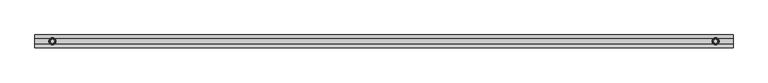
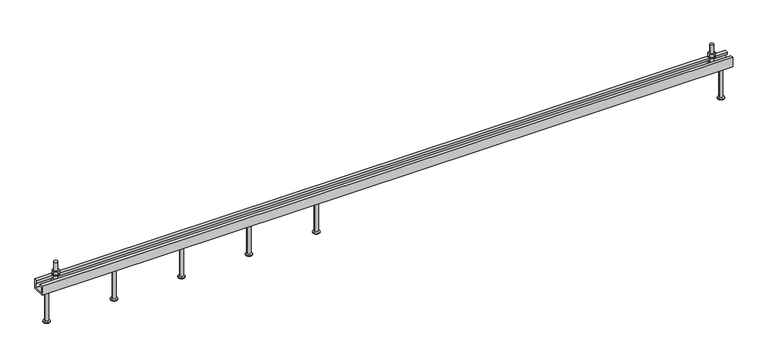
"""IFC4 building model written with IfcOpenShell, lengths in millimetres: fastener geometry, JTA-W JORDAHL® AnchorChannels : JTA-W L=3000 mm."""

import ifcopenshell
import ifcopenshell.guid

model = None  # the IFC model being written
_history = None  # IfcOwnerHistory: only IFC2X3 demands one
_inside = {}  # id of a spatial element -> (the spatial element, [elements in it])
_under = {}  # id of a project, library or spatial element -> (it, [spatial elements below it])
_declared = {}  # id of a project -> (the project, [libraries it declares])
_typed = {}  # id of a type object -> (the type object, [elements of that type])
_made_of = {}  # id of a material, layer set ... -> (it, [elements and type objects made of it])


def new_model(schema):
    """Start an empty IFC model of exactly this schema.

    Asked for "IFC4X3", IfcOpenShell would pick the latest addendum, in which some entities
    have other attributes; the version numbers below select the first issue.
    IFC2X3 requires an IfcOwnerHistory on every rooted entity: one is made here for all.
    """
    global model, _history
    if schema == "IFC4X3":
        model = ifcopenshell.file(schema_version=(4, 3, 0, 0))
    else:
        model = ifcopenshell.file(schema=schema)
    _inside.clear()
    _under.clear()
    _declared.clear()
    _typed.clear()
    _made_of.clear()
    _history = None
    if model.schema == "IFC2X3":
        org = make("IfcOrganization", Name="unknown")
        user = make(
            "IfcPersonAndOrganization",
            ThePerson=make("IfcPerson", FamilyName="unknown"),
            TheOrganization=org,
        )
        app = make(
            "IfcApplication",
            ApplicationDeveloper=org,
            Version="unknown",
            ApplicationFullName="unknown",
            ApplicationIdentifier="unknown",
        )
        _history = make(
            "IfcOwnerHistory",
            OwningUser=user,
            OwningApplication=app,
            ChangeAction="ADDED",
            CreationDate=0,
        )
    return model


def make(cls, **values):
    """One entity of the class cls with the attributes given. An attribute that is None is left unset."""
    return model.create_entity(
        cls, **{name: value for name, value in values.items() if value is not None}
    )


def rooted(cls, **values):
    """An entity with a GlobalId (a new one), such as an element, a storey or a relation."""
    return make(cls, GlobalId=ifcopenshell.guid.new(), OwnerHistory=_history, **values)


def si_unit(unit_type, name, prefix=None):
    """IfcSIUnit, for example si_unit("LENGTHUNIT", "METRE", prefix="MILLI")."""
    return make("IfcSIUnit", UnitType=unit_type, Prefix=prefix, Name=name)


def assignment(units):
    """IfcUnitAssignment: the units of a project."""
    return None if units is None else make("IfcUnitAssignment", Units=units)


def point(xyz):
    """IfcCartesianPoint."""
    return None if xyz is None else make("IfcCartesianPoint", Coordinates=xyz)


def direction(xyz):
    """IfcDirection."""
    return None if xyz is None else make("IfcDirection", DirectionRatios=xyz)


def frame(location, z_axis=None, x_axis=None):
    """IfcAxis2Placement3D, a coordinate frame: its origin and axes. An axis left out is left unset."""
    return make(
        "IfcAxis2Placement3D",
        Location=point(location),
        Axis=direction(z_axis),
        RefDirection=direction(x_axis),
    )


def frame_2d(location, x_axis=None):
    """IfcAxis2Placement2D, a coordinate frame in the plane: its origin and x axis."""
    return make(
        "IfcAxis2Placement2D", Location=point(location), RefDirection=direction(x_axis)
    )


def origin():
    """The frame at (0, 0, 0) with its axes left unset."""
    return frame((0.0, 0.0, 0.0))


def place(relative_to, where):
    """IfcLocalPlacement: puts the frame where relative to a parent placement (None: the world)."""
    return make(
        "IfcLocalPlacement", PlacementRelTo=relative_to, RelativePlacement=where
    )


def context(
    kind, dimensions, precision=None, world=None, true_north=None, identifier=None
):
    """IfcGeometricRepresentationContext, for example the 3D "Model" context."""
    return make(
        "IfcGeometricRepresentationContext",
        ContextIdentifier=identifier,
        ContextType=kind,
        CoordinateSpaceDimension=dimensions,
        Precision=precision,
        WorldCoordinateSystem=world,
        TrueNorth=true_north,
    )


def project(units=None, contexts=None):
    """IfcProject with its units and contexts."""
    return rooted(
        "IfcProject",
        Name="project",
        RepresentationContexts=contexts,
        UnitsInContext=assignment(units),
    )


def spatial(cls, under=None, at=None, **own):
    """A site, building, storey or space (cls), placed at a placement, below another one or the project."""
    s = rooted(cls, ObjectPlacement=at, **own)
    if under is not None:
        _under.setdefault(under.id(), (under, []))[1].append(s)
    return s


def polyline(points):
    """IfcPolyline through the points."""
    return make("IfcPolyline", Points=[point(p) for p in points])


def circle_curve(where, radius):
    """IfcCircle in the frame where."""
    return make("IfcCircle", Position=where, Radius=radius)


def trimmed(basis, trim1, trim2, sense, master):
    """IfcTrimmedCurve: the piece of a basis curve between two trims."""
    return make(
        "IfcTrimmedCurve",
        BasisCurve=basis,
        Trim1=trim1,
        Trim2=trim2,
        SenseAgreement=sense,
        MasterRepresentation=master,
    )


def segment(curve, same_sense, transition):
    """IfcCompositeCurveSegment."""
    return make(
        "IfcCompositeCurveSegment",
        Transition=transition,
        SameSense=same_sense,
        ParentCurve=curve,
    )


def composite_curve(segments, self_intersect=None):
    """IfcCompositeCurve: segments joined end to end."""
    return make("IfcCompositeCurve", Segments=segments, SelfIntersect=self_intersect)


def outline(outer, holes=None, kind="AREA"):
    """IfcArbitraryClosedProfileDef: a profile drawn as a closed curve; with holes, ...WithVoids."""
    if holes is None:
        return make("IfcArbitraryClosedProfileDef", ProfileType=kind, OuterCurve=outer)
    return make(
        "IfcArbitraryProfileDefWithVoids",
        ProfileType=kind,
        OuterCurve=outer,
        InnerCurves=holes,
    )


def extrude(swept, where, along, depth):
    """IfcExtrudedAreaSolid: the profile swept, set in the frame where, extruded along a direction by depth."""
    return make(
        "IfcExtrudedAreaSolid",
        SweptArea=swept,
        Position=where,
        ExtrudedDirection=direction(along),
        Depth=depth,
    )


def shape(context_of_items, identifier, shape_type, items):
    """IfcShapeRepresentation: the items that make up one representation, for example the "Body"."""
    return make(
        "IfcShapeRepresentation",
        ContextOfItems=context_of_items,
        RepresentationIdentifier=identifier,
        RepresentationType=shape_type,
        Items=items,
    )


def source(mapping_origin, context_of_items, identifier, shape_type, items):
    """IfcRepresentationMap: a shape defined once, which mapped items show again and again."""
    return make(
        "IfcRepresentationMap",
        MappingOrigin=mapping_origin,
        MappedRepresentation=shape(context_of_items, identifier, shape_type, items),
    )


def transform(
    local_origin,
    x_axis=None,
    y_axis=None,
    z_axis=None,
    scale=None,
    scale2=None,
    scale3=None,
    uniform=True,
):
    """IfcCartesianTransformationOperator3D, or its non-uniform kind. x_axis, y_axis, z_axis: its Axis1, 2, 3."""
    if uniform:
        return make(
            "IfcCartesianTransformationOperator3D",
            Axis1=direction(x_axis),
            Axis2=direction(y_axis),
            LocalOrigin=point(local_origin),
            Scale=scale,
            Axis3=direction(z_axis),
        )
    return make(
        "IfcCartesianTransformationOperator3DnonUniform",
        Axis1=direction(x_axis),
        Axis2=direction(y_axis),
        LocalOrigin=point(local_origin),
        Scale=scale,
        Axis3=direction(z_axis),
        Scale2=scale2,
        Scale3=scale3,
    )


def mapped(mapping_source, mapping_target):
    """IfcMappedItem: shows the shape of a source again, moved by a transform."""
    return make(
        "IfcMappedItem", MappingSource=mapping_source, MappingTarget=mapping_target
    )


def made_of(thing, what):
    """Note that an element or type object is made of a material, layer set ...; save() writes the relation."""
    if what is not None:
        _made_of.setdefault(what.id(), (what, []))[1].append(thing)
    return thing


def element(
    cls,
    number,
    at=None,
    inside=None,
    cuts=None,
    type_object=None,
    material=None,
    context=None,
    identifier="Body",
    shape_type=None,
    held_by="IfcProductDefinitionShape",
    body=None,
    shapes=None,
    **own,
):
    """One element of the class cls, such as IfcWall. Its Tag is "e" and its number.

    at: its placement. inside: the storey or other place that contains it. cuts: it is an
    opening in that element (IfcRelVoidsElement). A single representation is given by context,
    identifier, shape_type and body (its items); several are given by shapes. held_by: the class
    of the entity that holds the representations. save() writes the other relations.
    """
    e = rooted(cls, Tag="e%d" % number, ObjectPlacement=at, **own)
    if body is not None:
        shapes = [shape(context, identifier, shape_type, body)]
    if shapes is not None:
        e.Representation = make(held_by, Representations=shapes)
    if inside is not None:
        _inside.setdefault(inside.id(), (inside, []))[1].append(e)
    if cuts is not None:
        rooted(
            "IfcRelVoidsElement", RelatingBuildingElement=cuts, RelatedOpeningElement=e
        )
    if type_object is not None:
        _typed.setdefault(type_object.id(), (type_object, []))[1].append(e)
    return made_of(e, material)


def aggregate(whole, parts):
    """IfcRelAggregates: a whole, such as a stair, and the parts it consists of."""
    return rooted("IfcRelAggregates", RelatingObject=whole, RelatedObjects=parts)


def save(model, path):
    """Write the relations noted so far, then the file.

    IfcRelAggregates (storeys below a building ...), IfcRelContainedInSpatialStructure (elements
    in a storey), IfcRelDefinesByType, IfcRelAssociatesMaterial and IfcRelDeclares: one each for
    every whole, place, type object, material and project.
    """
    for whole, parts in _under.values():
        aggregate(whole, parts)
    for where, things in _inside.values():
        rooted(
            "IfcRelContainedInSpatialStructure",
            RelatedElements=things,
            RelatingStructure=where,
        )
    for kind, things in _typed.values():
        rooted("IfcRelDefinesByType", RelatedObjects=things, RelatingType=kind)
    for what, things in _made_of.values():
        rooted("IfcRelAssociatesMaterial", RelatedObjects=things, RelatingMaterial=what)
    for by, libraries in _declared.values():
        rooted("IfcRelDeclares", RelatingContext=by, RelatedDefinitions=libraries)
    model.write(path)


def plane_surface(at):
    """IfcPlane: the flat surface through the origin of the frame at, square to its z axis."""
    return make("IfcPlane", Position=at)


def cylinder_surface(at, radius):
    """IfcCylindricalSurface: all points at the distance radius from the z axis of the frame at."""
    return make("IfcCylindricalSurface", Position=at, Radius=radius)


def revolved_surface(curve, axis_point, axis_direction):
    """IfcSurfaceOfRevolution: the curve turned about the line through axis_point along axis_direction."""
    return make(
        "IfcSurfaceOfRevolution",
        SweptCurve=make("IfcArbitraryOpenProfileDef", ProfileType="CURVE", Curve=curve),
        AxisPosition=make("IfcAxis1Placement", Location=point(axis_point), Axis=direction(axis_direction)),
    )


def advanced_brep(points, edges, surfaces, faces):
    """IfcAdvancedBrep: a solid bounded by faces that lie on surfaces and meet in shared edges.

    An edge is (start, end): straight between two places in points (the first is 0);
    or (start, end, curve); or (start, end, curve, False) where it runs against its curve.
    A face is (place in surfaces, loops), or (place, loops, False) where it looks against
    its surface's normal. A loop lists edges by number (the first is 1), with a minus sign
    where the edge is run from its end to its start. The first loop is the outer one.
    """
    corners = [point(p) for p in points]
    vertices = [make("IfcVertexPoint", VertexGeometry=c) for c in corners]
    made = []
    for start, end, *more in edges:
        made.append(
            make(
                "IfcEdgeCurve",
                EdgeStart=vertices[start],
                EdgeEnd=vertices[end],
                EdgeGeometry=more[0] if more else make("IfcPolyline", Points=[corners[start], corners[end]]),
                SameSense=more[1] if len(more) > 1 else True,
            )
        )
    hull = []
    for where, loops, *sense in faces:
        bounds = []
        for j, loop in enumerate(loops):
            ring = [make("IfcOrientedEdge", EdgeElement=made[abs(k) - 1], Orientation=k > 0) for k in loop]
            bounds.append(
                make(
                    "IfcFaceOuterBound" if j == 0 else "IfcFaceBound",
                    Bound=make("IfcEdgeLoop", EdgeList=ring),
                    Orientation=True,
                )
            )
        hull.append(make("IfcAdvancedFace", Bounds=bounds, FaceSurface=surfaces[where], SameSense=sense[0] if sense else True))
    return make("IfcAdvancedBrep", Outer=make("IfcClosedShell", CfsFaces=hull))


def fastener_682311e9(model_context):
    return source(origin(), model_context, "Body", "SolidModel", [
        advanced_brep(
        [(1207.0, 0.0, -42.0), (1184.0, 0.0, -42.0), (1230.0, 0.0, -42.0), (1193.0, 0.0, -190.0), (1207.0, 0.0, -190.0), (1221.0, 0.0, -190.0), (1193.0, 0.0, -188.0), (1221.0, 0.0, -188.0), (1199.2, 0.0, -184.4204283), (1214.8, 0.0, -184.4204283), (1199.2, 0.0, -46.0), (1214.8, 0.0, -46.0)],
        [
            (0, 1),
            (1, 2, circle_curve(frame((1207.0, 0.0, -42.0), z_axis=(0.0, 0.0, 1.0), x_axis=(1.0, 0.0, 0.0)), 23.0)),
            (2, 0),
            (2, 1, circle_curve(frame((1207.0, 0.0, -42.0), z_axis=(0.0, 0.0, 1.0), x_axis=(1.0, 0.0, 0.0)), 23.0)),
            (3, 4),
            (4, 5),
            (5, 3, circle_curve(frame((1207.0, 0.0, -190.0), z_axis=(0.0, 0.0, -1.0), x_axis=(1.0, 0.0, 0.0)), 14.0)),
            (3, 5, circle_curve(frame((1207.0, 0.0, -190.0), z_axis=(0.0, 0.0, -1.0), x_axis=(1.0, 0.0, 0.0)), 14.0)),
            (6, 3),
            (5, 7),
            (7, 6, circle_curve(frame((1207.0, 0.0, -188.0), z_axis=(0.0, 0.0, -1.0), x_axis=(1.0, 0.0, 0.0)), 14.0)),
            (6, 7, circle_curve(frame((1207.0, 0.0, -188.0), z_axis=(0.0, 0.0, -1.0), x_axis=(1.0, 0.0, 0.0)), 14.0)),
            (8, 6),
            (7, 9),
            (9, 8, circle_curve(frame((1207.0, 0.0, -184.4204283), z_axis=(0.0, 0.0, -1.0), x_axis=(1.0, 0.0, 0.0)), 7.8)),
            (8, 9, circle_curve(frame((1207.0, 0.0, -184.4204283), z_axis=(0.0, 0.0, -1.0), x_axis=(1.0, 0.0, 0.0)), 7.8)),
            (10, 8),
            (9, 11),
            (11, 10, circle_curve(frame((1207.0, 0.0, -46.0), z_axis=(0.0, 0.0, -1.0), x_axis=(1.0, 0.0, 0.0)), 7.8)),
            (10, 11, circle_curve(frame((1207.0, 0.0, -46.0), z_axis=(0.0, 0.0, -1.0), x_axis=(1.0, 0.0, 0.0)), 7.8)),
            (1, 10),
            (11, 2),
        ],
        [
            plane_surface(frame((1207.0, 0.0, -42.0), z_axis=(0.0, 0.0, 1.0), x_axis=(1.0, 0.0, 0.0))),
            plane_surface(frame((1207.0, 0.0, -190.0), z_axis=(0.0, 0.0, -1.0), x_axis=(1.0, 0.0, 0.0))),
            cylinder_surface(frame((1207.0, 0.0, 2362.3150031), z_axis=(0.0, 0.0, 1.0), x_axis=(1.0, 0.0, 0.0)), 14.0),
            revolved_surface(polyline([(1221.0, 0.0, -188.0), (1214.8, 0.0, -184.4204283)]), (1207.0, 0.0, 2362.3150031), (0.0, 0.0, 1.0)),
            cylinder_surface(frame((1207.0, 0.0, 2362.3150031), z_axis=(0.0, 0.0, 1.0), x_axis=(1.0, 0.0, 0.0)), 7.8),
            revolved_surface(polyline([(1214.8, 0.0, -46.0), (1230.0, 0.0, -42.0)]), (1207.0, 0.0, 2362.3150031), (0.0, 0.0, 1.0)),
        ],
        [
            (0, [[1, 2, 3]]),
            (0, [[-3, 4, -1]]),
            (1, [[5, 6, 7]]),
            (1, [[-6, -5, 8]]),
            (2, [[9, -7, 10, 11]]),
            (2, [[-10, -8, -9, 12]]),
            (3, [[13, -11, 14, 15]]),
            (3, [[-14, -12, -13, 16]]),
            (4, [[17, -15, 18, 19]]),
            (4, [[-18, -16, -17, 20]]),
            (5, [[21, -19, 22, -2]]),
            (5, [[-22, -20, -21, -4]]),
        ],
    ),
        advanced_brep(
        [(914.0, 0.0, -42.0), (891.0, 0.0, -42.0), (937.0, 0.0, -42.0), (900.0, 0.0, -190.0), (914.0, 0.0, -190.0), (928.0, 0.0, -190.0), (900.0, 0.0, -188.0), (928.0, 0.0, -188.0), (906.2, 0.0, -184.4204283), (921.8, 0.0, -184.4204283), (906.2, 0.0, -46.0), (921.8, 0.0, -46.0)],
        [
            (0, 1),
            (1, 2, circle_curve(frame((914.0, 0.0, -42.0), z_axis=(0.0, 0.0, 1.0), x_axis=(1.0, 0.0, 0.0)), 23.0)),
            (2, 0),
            (2, 1, circle_curve(frame((914.0, 0.0, -42.0), z_axis=(0.0, 0.0, 1.0), x_axis=(1.0, 0.0, 0.0)), 23.0)),
            (3, 4),
            (4, 5),
            (5, 3, circle_curve(frame((914.0, 0.0, -190.0), z_axis=(0.0, 0.0, -1.0), x_axis=(1.0, 0.0, 0.0)), 14.0)),
            (3, 5, circle_curve(frame((914.0, 0.0, -190.0), z_axis=(0.0, 0.0, -1.0), x_axis=(1.0, 0.0, 0.0)), 14.0)),
            (6, 3),
            (5, 7),
            (7, 6, circle_curve(frame((914.0, 0.0, -188.0), z_axis=(0.0, 0.0, -1.0), x_axis=(1.0, 0.0, 0.0)), 14.0)),
            (6, 7, circle_curve(frame((914.0, 0.0, -188.0), z_axis=(0.0, 0.0, -1.0), x_axis=(1.0, 0.0, 0.0)), 14.0)),
            (8, 6),
            (7, 9),
            (9, 8, circle_curve(frame((914.0, 0.0, -184.4204283), z_axis=(0.0, 0.0, -1.0), x_axis=(1.0, 0.0, 0.0)), 7.8)),
            (8, 9, circle_curve(frame((914.0, 0.0, -184.4204283), z_axis=(0.0, 0.0, -1.0), x_axis=(1.0, 0.0, 0.0)), 7.8)),
            (10, 8),
            (9, 11),
            (11, 10, circle_curve(frame((914.0, 0.0, -46.0), z_axis=(0.0, 0.0, -1.0), x_axis=(1.0, 0.0, 0.0)), 7.8)),
            (10, 11, circle_curve(frame((914.0, 0.0, -46.0), z_axis=(0.0, 0.0, -1.0), x_axis=(1.0, 0.0, 0.0)), 7.8)),
            (1, 10),
            (11, 2),
        ],
        [
            plane_surface(frame((914.0, 0.0, -42.0), z_axis=(0.0, 0.0, 1.0), x_axis=(1.0, 0.0, 0.0))),
            plane_surface(frame((914.0, 0.0, -190.0), z_axis=(0.0, 0.0, -1.0), x_axis=(1.0, 0.0, 0.0))),
            cylinder_surface(frame((914.0, 0.0, 2362.3150031), z_axis=(0.0, 0.0, 1.0), x_axis=(1.0, 0.0, 0.0)), 14.0),
            revolved_surface(polyline([(928.0, 0.0, -188.0), (921.8, 0.0, -184.4204283)]), (914.0, 0.0, 2362.3150031), (0.0, 0.0, 1.0)),
            cylinder_surface(frame((914.0, 0.0, 2362.3150031), z_axis=(0.0, 0.0, 1.0), x_axis=(1.0, 0.0, 0.0)), 7.8),
            revolved_surface(polyline([(921.8, 0.0, -46.0), (937.0, 0.0, -42.0)]), (914.0, 0.0, 2362.3150031), (0.0, 0.0, 1.0)),
        ],
        [
            (0, [[1, 2, 3]]),
            (0, [[-3, 4, -1]]),
            (1, [[5, 6, 7]]),
            (1, [[-6, -5, 8]]),
            (2, [[9, -7, 10, 11]]),
            (2, [[-10, -8, -9, 12]]),
            (3, [[13, -11, 14, 15]]),
            (3, [[-14, -12, -13, 16]]),
            (4, [[17, -15, 18, 19]]),
            (4, [[-18, -16, -17, 20]]),
            (5, [[21, -19, 22, -2]]),
            (5, [[-22, -20, -21, -4]]),
        ],
    ),
        advanced_brep(
        [(621.0, 0.0, -42.0), (598.0, 0.0, -42.0), (644.0, 0.0, -42.0), (607.0, 0.0, -190.0), (621.0, 0.0, -190.0), (635.0, 0.0, -190.0), (607.0, 0.0, -188.0), (635.0, 0.0, -188.0), (613.2, 0.0, -184.4204283), (628.8, 0.0, -184.4204283), (613.2, 0.0, -46.0), (628.8, 0.0, -46.0)],
        [
            (0, 1),
            (1, 2, circle_curve(frame((621.0, 0.0, -42.0), z_axis=(0.0, 0.0, 1.0), x_axis=(1.0, 0.0, 0.0)), 23.0)),
            (2, 0),
            (2, 1, circle_curve(frame((621.0, 0.0, -42.0), z_axis=(0.0, 0.0, 1.0), x_axis=(1.0, 0.0, 0.0)), 23.0)),
            (3, 4),
            (4, 5),
            (5, 3, circle_curve(frame((621.0, 0.0, -190.0), z_axis=(0.0, 0.0, -1.0), x_axis=(1.0, 0.0, 0.0)), 14.0)),
            (3, 5, circle_curve(frame((621.0, 0.0, -190.0), z_axis=(0.0, 0.0, -1.0), x_axis=(1.0, 0.0, 0.0)), 14.0)),
            (6, 3),
            (5, 7),
            (7, 6, circle_curve(frame((621.0, 0.0, -188.0), z_axis=(0.0, 0.0, -1.0), x_axis=(1.0, 0.0, 0.0)), 14.0)),
            (6, 7, circle_curve(frame((621.0, 0.0, -188.0), z_axis=(0.0, 0.0, -1.0), x_axis=(1.0, 0.0, 0.0)), 14.0)),
            (8, 6),
            (7, 9),
            (9, 8, circle_curve(frame((621.0, 0.0, -184.4204283), z_axis=(0.0, 0.0, -1.0), x_axis=(1.0, 0.0, 0.0)), 7.8)),
            (8, 9, circle_curve(frame((621.0, 0.0, -184.4204283), z_axis=(0.0, 0.0, -1.0), x_axis=(1.0, 0.0, 0.0)), 7.8)),
            (10, 8),
            (9, 11),
            (11, 10, circle_curve(frame((621.0, 0.0, -46.0), z_axis=(0.0, 0.0, -1.0), x_axis=(1.0, 0.0, 0.0)), 7.8)),
            (10, 11, circle_curve(frame((621.0, 0.0, -46.0), z_axis=(0.0, 0.0, -1.0), x_axis=(1.0, 0.0, 0.0)), 7.8)),
            (1, 10),
            (11, 2),
        ],
        [
            plane_surface(frame((621.0, 0.0, -42.0), z_axis=(0.0, 0.0, 1.0), x_axis=(1.0, 0.0, 0.0))),
            plane_surface(frame((621.0, 0.0, -190.0), z_axis=(0.0, 0.0, -1.0), x_axis=(1.0, 0.0, 0.0))),
            cylinder_surface(frame((621.0, 0.0, 2362.3150031), z_axis=(0.0, 0.0, 1.0), x_axis=(1.0, 0.0, 0.0)), 14.0),
            revolved_surface(polyline([(635.0, 0.0, -188.0), (628.8, 0.0, -184.4204283)]), (621.0, 0.0, 2362.3150031), (0.0, 0.0, 1.0)),
            cylinder_surface(frame((621.0, 0.0, 2362.3150031), z_axis=(0.0, 0.0, 1.0), x_axis=(1.0, 0.0, 0.0)), 7.8),
            revolved_surface(polyline([(628.8, 0.0, -46.0), (644.0, 0.0, -42.0)]), (621.0, 0.0, 2362.3150031), (0.0, 0.0, 1.0)),
        ],
        [
            (0, [[1, 2, 3]]),
            (0, [[-3, 4, -1]]),
            (1, [[5, 6, 7]]),
            (1, [[-6, -5, 8]]),
            (2, [[9, -7, 10, 11]]),
            (2, [[-10, -8, -9, 12]]),
            (3, [[13, -11, 14, 15]]),
            (3, [[-14, -12, -13, 16]]),
            (4, [[17, -15, 18, 19]]),
            (4, [[-18, -16, -17, 20]]),
            (5, [[21, -19, 22, -2]]),
            (5, [[-22, -20, -21, -4]]),
        ],
    ),
        advanced_brep(
        [(328.0, 0.0, -42.0), (305.0, 0.0, -42.0), (351.0, 0.0, -42.0), (314.0, 0.0, -190.0), (328.0, 0.0, -190.0), (342.0, 0.0, -190.0), (314.0, 0.0, -188.0), (342.0, 0.0, -188.0), (320.2, 0.0, -184.4204283), (335.8, 0.0, -184.4204283), (320.2, 0.0, -46.0), (335.8, 0.0, -46.0)],
        [
            (0, 1),
            (1, 2, circle_curve(frame((328.0, 0.0, -42.0), z_axis=(0.0, 0.0, 1.0), x_axis=(1.0, 0.0, 0.0)), 23.0)),
            (2, 0),
            (2, 1, circle_curve(frame((328.0, 0.0, -42.0), z_axis=(0.0, 0.0, 1.0), x_axis=(1.0, 0.0, 0.0)), 23.0)),
            (3, 4),
            (4, 5),
            (5, 3, circle_curve(frame((328.0, 0.0, -190.0), z_axis=(0.0, 0.0, -1.0), x_axis=(1.0, 0.0, 0.0)), 14.0)),
            (3, 5, circle_curve(frame((328.0, 0.0, -190.0), z_axis=(0.0, 0.0, -1.0), x_axis=(1.0, 0.0, 0.0)), 14.0)),
            (6, 3),
            (5, 7),
            (7, 6, circle_curve(frame((328.0, 0.0, -188.0), z_axis=(0.0, 0.0, -1.0), x_axis=(1.0, 0.0, 0.0)), 14.0)),
            (6, 7, circle_curve(frame((328.0, 0.0, -188.0), z_axis=(0.0, 0.0, -1.0), x_axis=(1.0, 0.0, 0.0)), 14.0)),
            (8, 6),
            (7, 9),
            (9, 8, circle_curve(frame((328.0, 0.0, -184.4204283), z_axis=(0.0, 0.0, -1.0), x_axis=(1.0, 0.0, 0.0)), 7.8)),
            (8, 9, circle_curve(frame((328.0, 0.0, -184.4204283), z_axis=(0.0, 0.0, -1.0), x_axis=(1.0, 0.0, 0.0)), 7.8)),
            (10, 8),
            (9, 11),
            (11, 10, circle_curve(frame((328.0, 0.0, -46.0), z_axis=(0.0, 0.0, -1.0), x_axis=(1.0, 0.0, 0.0)), 7.8)),
            (10, 11, circle_curve(frame((328.0, 0.0, -46.0), z_axis=(0.0, 0.0, -1.0), x_axis=(1.0, 0.0, 0.0)), 7.8)),
            (1, 10),
            (11, 2),
        ],
        [
            plane_surface(frame((328.0, 0.0, -42.0), z_axis=(0.0, 0.0, 1.0), x_axis=(1.0, 0.0, 0.0))),
            plane_surface(frame((328.0, 0.0, -190.0), z_axis=(0.0, 0.0, -1.0), x_axis=(1.0, 0.0, 0.0))),
            cylinder_surface(frame((328.0, 0.0, 2362.3150031), z_axis=(0.0, 0.0, 1.0), x_axis=(1.0, 0.0, 0.0)), 14.0),
            revolved_surface(polyline([(342.0, 0.0, -188.0), (335.8, 0.0, -184.4204283)]), (328.0, 0.0, 2362.3150031), (0.0, 0.0, 1.0)),
            cylinder_surface(frame((328.0, 0.0, 2362.3150031), z_axis=(0.0, 0.0, 1.0), x_axis=(1.0, 0.0, 0.0)), 7.8),
            revolved_surface(polyline([(335.8, 0.0, -46.0), (351.0, 0.0, -42.0)]), (328.0, 0.0, 2362.3150031), (0.0, 0.0, 1.0)),
        ],
        [
            (0, [[1, 2, 3]]),
            (0, [[-3, 4, -1]]),
            (1, [[5, 6, 7]]),
            (1, [[-6, -5, 8]]),
            (2, [[9, -7, 10, 11]]),
            (2, [[-10, -8, -9, 12]]),
            (3, [[13, -11, 14, 15]]),
            (3, [[-14, -12, -13, 16]]),
            (4, [[17, -15, 18, 19]]),
            (4, [[-18, -16, -17, 20]]),
            (5, [[21, -19, 22, -2]]),
            (5, [[-22, -20, -21, -4]]),
        ],
    ),
        extrude(outline(polyline([(2925.0, -13.8564065), (2913.0, -6.9282032), (2913.0, 6.9282032), (2925.0, 13.8564065), (2937.0, 6.9282032), (2937.0, -6.9282032), (2925.0, -13.8564065)]), holes=[composite_curve([segment(trimmed(circle_curve(frame_2d((2925.0, 0.0)), 8.0), [point((2917.0, 0.0))], [point((2933.0, 0.0))], True, "CARTESIAN"), True, "CONTINUOUS"), segment(trimmed(circle_curve(frame_2d((2925.0, 0.0)), 8.0), [point((2933.0, 0.0))], [point((2917.0, 0.0))], True, "CARTESIAN"), True, "CONTINUOUS")], self_intersect=False)]), frame((0.0, 0.0, 18.0), z_axis=(0.0, 0.0, 1.0), x_axis=(1.0, 0.0, 0.0)), (0.0, 0.0, 1.0), 14.8),
        extrude(outline(composite_curve([segment(trimmed(circle_curve(frame_2d((2925.0, 0.0)), 15.0), [point((2910.0, 0.0))], [point((2940.0, 0.0))], False, "CARTESIAN"), True, "CONTINUOUS"), segment(trimmed(circle_curve(frame_2d((2925.0, 0.0)), 15.0), [point((2940.0, 0.0))], [point((2910.0, 0.0))], False, "CARTESIAN"), True, "CONTINUOUS")], self_intersect=False), holes=[composite_curve([segment(trimmed(circle_curve(frame_2d((2925.0, 0.0)), 8.5), [point((2916.5, 0.0))], [point((2933.5, 0.0))], True, "CARTESIAN"), True, "CONTINUOUS"), segment(trimmed(circle_curve(frame_2d((2925.0, 0.0)), 8.5), [point((2933.5, 0.0))], [point((2916.5, 0.0))], True, "CARTESIAN"), True, "CONTINUOUS")], self_intersect=False)]), frame((0.0, 0.0, 15.0), z_axis=(0.0, 0.0, 1.0), x_axis=(1.0, 0.0, 0.0)), (0.0, 0.0, 1.0), 3.0),
        extrude(outline(polyline([(75.0, -13.8564065), (63.0, -6.9282032), (63.0, 6.9282032), (75.0, 13.8564065), (87.0, 6.9282032), (87.0, -6.9282032), (75.0, -13.8564065)]), holes=[composite_curve([segment(trimmed(circle_curve(frame_2d((75.0, 0.0)), 8.0), [point((67.0, 0.0))], [point((83.0, 0.0))], True, "CARTESIAN"), True, "CONTINUOUS"), segment(trimmed(circle_curve(frame_2d((75.0, 0.0)), 8.0), [point((83.0, 0.0))], [point((67.0, 0.0))], True, "CARTESIAN"), True, "CONTINUOUS")], self_intersect=False)]), frame((0.0, 0.0, 18.0), z_axis=(0.0, 0.0, 1.0), x_axis=(1.0, 0.0, 0.0)), (0.0, 0.0, 1.0), 14.8),
        extrude(outline(composite_curve([segment(trimmed(circle_curve(frame_2d((75.0, 0.0)), 15.0), [point((60.0, 0.0))], [point((90.0, 0.0))], False, "CARTESIAN"), True, "CONTINUOUS"), segment(trimmed(circle_curve(frame_2d((75.0, 0.0)), 15.0), [point((90.0, 0.0))], [point((60.0, 0.0))], False, "CARTESIAN"), True, "CONTINUOUS")], self_intersect=False), holes=[composite_curve([segment(trimmed(circle_curve(frame_2d((75.0, 0.0)), 8.5), [point((66.5, 0.0))], [point((83.5, 0.0))], True, "CARTESIAN"), True, "CONTINUOUS"), segment(trimmed(circle_curve(frame_2d((75.0, 0.0)), 8.5), [point((83.5, 0.0))], [point((66.5, 0.0))], True, "CARTESIAN"), True, "CONTINUOUS")], self_intersect=False)]), frame((0.0, 0.0, 15.0), z_axis=(0.0, 0.0, 1.0), x_axis=(1.0, 0.0, 0.0)), (0.0, 0.0, 1.0), 3.0),
        advanced_brep(
        [(2933.5, -20.7, -10.0), (2933.5, -20.7, -21.0), (2933.5, 20.7, -21.0), (2933.5, 20.7, -10.0), (2916.5, -20.7, -10.0), (2916.5, 20.7, -10.0), (2916.5, 20.7, -21.0), (2916.5, -20.7, -21.0), (2933.0, 0.0, -10.0), (2917.0, 0.0, -10.0), (2917.0, 0.0, 70.0), (2933.0, 0.0, 70.0)],
        [
            (0, 1),
            (1, 2),
            (2, 3),
            (3, 0),
            (4, 5),
            (5, 6),
            (6, 7),
            (7, 4),
            (3, 5),
            (4, 0),
            (8, 9, circle_curve(frame((2925.0, 0.0, -10.0), z_axis=(0.0, 0.0, -1.0), x_axis=(1.0, 0.0, 0.0)), 8.0)),
            (9, 8, circle_curve(frame((2925.0, 0.0, -10.0), z_axis=(0.0, 0.0, -1.0), x_axis=(1.0, 0.0, 0.0)), 8.0)),
            (2, 6),
            (1, 7),
            (10, 11, circle_curve(frame((2925.0, 0.0, 70.0), z_axis=(0.0, 0.0, 1.0), x_axis=(1.0, 0.0, 0.0)), 8.0)),
            (11, 10, circle_curve(frame((2925.0, 0.0, 70.0), z_axis=(0.0, 0.0, 1.0), x_axis=(1.0, 0.0, 0.0)), 8.0)),
            (11, 8),
            (9, 10),
        ],
        [
            plane_surface(frame((2933.5, 20.7, -10.0), z_axis=(1.0, 0.0, 0.0), x_axis=(0.0, 1.0, 0.0))),
            plane_surface(frame((2916.5, 20.7, -10.0), z_axis=(-1.0, 0.0, 0.0), x_axis=(0.0, -1.0, 0.0))),
            plane_surface(frame((2933.5, -20.7, -10.0), z_axis=(0.0, 0.0, 1.0), x_axis=(-1.0, 0.0, 0.0))),
            plane_surface(frame((2933.5, 20.7, -10.0), z_axis=(0.0, 1.0, 0.0), x_axis=(-1.0, 0.0, 0.0))),
            plane_surface(frame((2933.5, 20.7, -21.0), z_axis=(0.0, 0.0, -1.0), x_axis=(-1.0, 0.0, 0.0))),
            plane_surface(frame((2933.5, -20.7, -21.0), z_axis=(0.0, -1.0, 0.0), x_axis=(-1.0, 0.0, 0.0))),
            plane_surface(frame((2933.0, 0.0, 70.0), z_axis=(0.0, 0.0, 1.0), x_axis=(0.0, -1.0, 0.0))),
            cylinder_surface(frame((2925.0, 0.0, -10.0), z_axis=(0.0, 0.0, 1.0), x_axis=(1.0, 0.0, 0.0)), 8.0),
        ],
        [
            (0, [[1, 2, 3, 4]]),
            (1, [[5, 6, 7, 8]]),
            (2, [[9, -5, 10, -4], [11, 12]]),
            (3, [[13, -6, -9, -3]]),
            (4, [[14, -7, -13, -2]]),
            (5, [[-10, -8, -14, -1]]),
            (6, [[15, 16]]),
            (7, [[17, -12, 18, -16]]),
            (7, [[-18, -11, -17, -15]]),
        ],
    ),
        advanced_brep(
        [(83.5, -20.7, -10.0), (83.5, -20.7, -21.0), (83.5, 20.7, -21.0), (83.5, 20.7, -10.0), (66.5, -20.7, -10.0), (66.5, 20.7, -10.0), (66.5, 20.7, -21.0), (66.5, -20.7, -21.0), (83.0, 0.0, -10.0), (67.0, 0.0, -10.0), (67.0, 0.0, 70.0), (83.0, 0.0, 70.0)],
        [
            (0, 1),
            (1, 2),
            (2, 3),
            (3, 0),
            (4, 5),
            (5, 6),
            (6, 7),
            (7, 4),
            (3, 5),
            (4, 0),
            (8, 9, circle_curve(frame((75.0, 0.0, -10.0), z_axis=(0.0, 0.0, -1.0), x_axis=(1.0, 0.0, 0.0)), 8.0)),
            (9, 8, circle_curve(frame((75.0, 0.0, -10.0), z_axis=(0.0, 0.0, -1.0), x_axis=(1.0, 0.0, 0.0)), 8.0)),
            (2, 6),
            (1, 7),
            (10, 11, circle_curve(frame((75.0, 0.0, 70.0), z_axis=(0.0, 0.0, 1.0), x_axis=(1.0, 0.0, 0.0)), 8.0)),
            (11, 10, circle_curve(frame((75.0, 0.0, 70.0), z_axis=(0.0, 0.0, 1.0), x_axis=(1.0, 0.0, 0.0)), 8.0)),
            (11, 8),
            (9, 10),
        ],
        [
            plane_surface(frame((83.5, 20.7, -10.0), z_axis=(1.0, 0.0, 0.0), x_axis=(0.0, 1.0, 0.0))),
            plane_surface(frame((66.5, 20.7, -10.0), z_axis=(-1.0, 0.0, 0.0), x_axis=(0.0, -1.0, 0.0))),
            plane_surface(frame((83.5, -20.7, -10.0), z_axis=(0.0, 0.0, 1.0), x_axis=(-1.0, 0.0, 0.0))),
            plane_surface(frame((83.5, 20.7, -10.0), z_axis=(0.0, 1.0, 0.0), x_axis=(-1.0, 0.0, 0.0))),
            plane_surface(frame((83.5, 20.7, -21.0), z_axis=(0.0, 0.0, -1.0), x_axis=(-1.0, 0.0, 0.0))),
            plane_surface(frame((83.5, -20.7, -21.0), z_axis=(0.0, -1.0, 0.0), x_axis=(-1.0, 0.0, 0.0))),
            plane_surface(frame((83.0, 0.0, 70.0), z_axis=(0.0, 0.0, 1.0), x_axis=(0.0, -1.0, 0.0))),
            cylinder_surface(frame((75.0, 0.0, -10.0), z_axis=(0.0, 0.0, 1.0), x_axis=(1.0, 0.0, 0.0)), 8.0),
        ],
        [
            (0, [[1, 2, 3, 4]]),
            (1, [[5, 6, 7, 8]]),
            (2, [[9, -5, 10, -4], [11, 12]]),
            (3, [[13, -6, -9, -3]]),
            (4, [[14, -7, -13, -2]]),
            (5, [[-10, -8, -14, -1]]),
            (6, [[15, 16]]),
            (7, [[17, -12, 18, -16]]),
            (7, [[-18, -11, -17, -15]]),
        ],
    ),
        advanced_brep(
        [(2965.0, 0.0, -42.0), (2942.0, 0.0, -42.0), (2988.0, 0.0, -42.0), (2951.0, 0.0, -190.0), (2965.0, 0.0, -190.0), (2979.0, 0.0, -190.0), (2951.0, 0.0, -188.0), (2979.0, 0.0, -188.0), (2957.2, 0.0, -184.4204283), (2972.8, 0.0, -184.4204283), (2957.2, 0.0, -46.0), (2972.8, 0.0, -46.0)],
        [
            (0, 1),
            (1, 2, circle_curve(frame((2965.0, 0.0, -42.0), z_axis=(0.0, 0.0, 1.0), x_axis=(1.0, 0.0, 0.0)), 23.0)),
            (2, 0),
            (2, 1, circle_curve(frame((2965.0, 0.0, -42.0), z_axis=(0.0, 0.0, 1.0), x_axis=(1.0, 0.0, 0.0)), 23.0)),
            (3, 4),
            (4, 5),
            (5, 3, circle_curve(frame((2965.0, 0.0, -190.0), z_axis=(0.0, 0.0, -1.0), x_axis=(1.0, 0.0, 0.0)), 14.0)),
            (3, 5, circle_curve(frame((2965.0, 0.0, -190.0), z_axis=(0.0, 0.0, -1.0), x_axis=(1.0, 0.0, 0.0)), 14.0)),
            (6, 3),
            (5, 7),
            (7, 6, circle_curve(frame((2965.0, 0.0, -188.0), z_axis=(0.0, 0.0, -1.0), x_axis=(1.0, 0.0, 0.0)), 14.0)),
            (6, 7, circle_curve(frame((2965.0, 0.0, -188.0), z_axis=(0.0, 0.0, -1.0), x_axis=(1.0, 0.0, 0.0)), 14.0)),
            (8, 6),
            (7, 9),
            (9, 8, circle_curve(frame((2965.0, 0.0, -184.4204283), z_axis=(0.0, 0.0, -1.0), x_axis=(1.0, 0.0, 0.0)), 7.8)),
            (8, 9, circle_curve(frame((2965.0, 0.0, -184.4204283), z_axis=(0.0, 0.0, -1.0), x_axis=(1.0, 0.0, 0.0)), 7.8)),
            (10, 8),
            (9, 11),
            (11, 10, circle_curve(frame((2965.0, 0.0, -46.0), z_axis=(0.0, 0.0, -1.0), x_axis=(1.0, 0.0, 0.0)), 7.8)),
            (10, 11, circle_curve(frame((2965.0, 0.0, -46.0), z_axis=(0.0, 0.0, -1.0), x_axis=(1.0, 0.0, 0.0)), 7.8)),
            (1, 10),
            (11, 2),
        ],
        [
            plane_surface(frame((2965.0, 0.0, -42.0), z_axis=(0.0, 0.0, 1.0), x_axis=(1.0, 0.0, 0.0))),
            plane_surface(frame((2965.0, 0.0, -190.0), z_axis=(0.0, 0.0, -1.0), x_axis=(1.0, 0.0, 0.0))),
            cylinder_surface(frame((2965.0, 0.0, 2362.3150031), z_axis=(0.0, 0.0, 1.0), x_axis=(1.0, 0.0, 0.0)), 14.0),
            revolved_surface(polyline([(2979.0, 0.0, -188.0), (2972.8, 0.0, -184.4204283)]), (2965.0, 0.0, 2362.3150031), (0.0, 0.0, 1.0)),
            cylinder_surface(frame((2965.0, 0.0, 2362.3150031), z_axis=(0.0, 0.0, 1.0), x_axis=(1.0, 0.0, 0.0)), 7.8),
            revolved_surface(polyline([(2972.8, 0.0, -46.0), (2988.0, 0.0, -42.0)]), (2965.0, 0.0, 2362.3150031), (0.0, 0.0, 1.0)),
        ],
        [
            (0, [[1, 2, 3]]),
            (0, [[-3, 4, -1]]),
            (1, [[5, 6, 7]]),
            (1, [[-6, -5, 8]]),
            (2, [[9, -7, 10, 11]]),
            (2, [[-10, -8, -9, 12]]),
            (3, [[13, -11, 14, 15]]),
            (3, [[-14, -12, -13, 16]]),
            (4, [[17, -15, 18, 19]]),
            (4, [[-18, -16, -17, 20]]),
            (5, [[21, -19, 22, -2]]),
            (5, [[-22, -20, -21, -4]]),
        ],
    ),
        advanced_brep(
        [(35.0, 0.0, -42.0), (12.0, 0.0, -42.0), (58.0, 0.0, -42.0), (21.0, 0.0, -190.0), (35.0, 0.0, -190.0), (49.0, 0.0, -190.0), (21.0, 0.0, -188.0), (49.0, 0.0, -188.0), (27.2, 0.0, -184.4204283), (42.8, 0.0, -184.4204283), (27.2, 0.0, -46.0), (42.8, 0.0, -46.0)],
        [
            (0, 1),
            (1, 2, circle_curve(frame((35.0, 0.0, -42.0), z_axis=(0.0, 0.0, 1.0), x_axis=(1.0, 0.0, 0.0)), 23.0)),
            (2, 0),
            (2, 1, circle_curve(frame((35.0, 0.0, -42.0), z_axis=(0.0, 0.0, 1.0), x_axis=(1.0, 0.0, 0.0)), 23.0)),
            (3, 4),
            (4, 5),
            (5, 3, circle_curve(frame((35.0, 0.0, -190.0), z_axis=(0.0, 0.0, -1.0), x_axis=(1.0, 0.0, 0.0)), 14.0)),
            (3, 5, circle_curve(frame((35.0, 0.0, -190.0), z_axis=(0.0, 0.0, -1.0), x_axis=(1.0, 0.0, 0.0)), 14.0)),
            (6, 3),
            (5, 7),
            (7, 6, circle_curve(frame((35.0, 0.0, -188.0), z_axis=(0.0, 0.0, -1.0), x_axis=(1.0, 0.0, 0.0)), 14.0)),
            (6, 7, circle_curve(frame((35.0, 0.0, -188.0), z_axis=(0.0, 0.0, -1.0), x_axis=(1.0, 0.0, 0.0)), 14.0)),
            (8, 6),
            (7, 9),
            (9, 8, circle_curve(frame((35.0, 0.0, -184.4204283), z_axis=(0.0, 0.0, -1.0), x_axis=(1.0, 0.0, 0.0)), 7.8)),
            (8, 9, circle_curve(frame((35.0, 0.0, -184.4204283), z_axis=(0.0, 0.0, -1.0), x_axis=(1.0, 0.0, 0.0)), 7.8)),
            (10, 8),
            (9, 11),
            (11, 10, circle_curve(frame((35.0, 0.0, -46.0), z_axis=(0.0, 0.0, -1.0), x_axis=(1.0, 0.0, 0.0)), 7.8)),
            (10, 11, circle_curve(frame((35.0, 0.0, -46.0), z_axis=(0.0, 0.0, -1.0), x_axis=(1.0, 0.0, 0.0)), 7.8)),
            (1, 10),
            (11, 2),
        ],
        [
            plane_surface(frame((35.0, 0.0, -42.0), z_axis=(0.0, 0.0, 1.0), x_axis=(1.0, 0.0, 0.0))),
            plane_surface(frame((35.0, 0.0, -190.0), z_axis=(0.0, 0.0, -1.0), x_axis=(1.0, 0.0, 0.0))),
            cylinder_surface(frame((35.0, 0.0, 2362.3150031), z_axis=(0.0, 0.0, 1.0), x_axis=(1.0, 0.0, 0.0)), 14.0),
            revolved_surface(polyline([(49.0, 0.0, -188.0), (42.8, 0.0, -184.4204283)]), (35.0, 0.0, 2362.3150031), (0.0, 0.0, 1.0)),
            cylinder_surface(frame((35.0, 0.0, 2362.3150031), z_axis=(0.0, 0.0, 1.0), x_axis=(1.0, 0.0, 0.0)), 7.8),
            revolved_surface(polyline([(42.8, 0.0, -46.0), (58.0, 0.0, -42.0)]), (35.0, 0.0, 2362.3150031), (0.0, 0.0, 1.0)),
        ],
        [
            (0, [[1, 2, 3]]),
            (0, [[-3, 4, -1]]),
            (1, [[5, 6, 7]]),
            (1, [[-6, -5, 8]]),
            (2, [[9, -7, 10, 11]]),
            (2, [[-10, -8, -9, 12]]),
            (3, [[13, -11, 14, 15]]),
            (3, [[-14, -12, -13, 16]]),
            (4, [[17, -15, 18, 19]]),
            (4, [[-18, -16, -17, 20]]),
            (5, [[21, -19, 22, -2]]),
            (5, [[-22, -20, -21, -4]]),
        ],
    ),
        extrude(outline(polyline([(-27.5, 0.0), (-13.0, 0.0), (-13.0, -10.0), (-22.5, -10.0), (-22.5, -37.0), (22.5, -37.0), (22.5, -10.0), (13.0, -10.0), (13.0, 0.0), (27.5, 0.0), (27.5, -42.0), (-27.5, -42.0), (-27.5, 0.0)])), frame((0.0, 0.0, 0.0), z_axis=(1.0, 0.0, 0.0), x_axis=(0.0, 1.0, 0.0)), (0.0, 0.0, 1.0), 3000.0),
    ])


if __name__ == "__main__":
    model = new_model("IFC4")
    model_context = context("Model", 3, world=origin())
    ifc_project = project(units=[si_unit("LENGTHUNIT", "METRE", prefix="MILLI")], contexts=[model_context])
    site = spatial("IfcSite", under=ifc_project)
    building = spatial("IfcBuilding", under=site)
    placement = place(None, origin())
    fastener_shape = fastener_682311e9(model_context)
    element("IfcFastener", 1, ObjectType="JTA-W JORDAHL® AnchorChannels : JTA-W L=3000 mm", at=placement, inside=building, context=model_context, shape_type="MappedRepresentation", body=[
        mapped(fastener_shape, transform((0.0, 0.0, 0.0), x_axis=(1.0, 0.0, 0.0), y_axis=(0.0, 1.0, 0.0), z_axis=(0.0, 0.0, 1.0))),
    ])
    save(model, "model.ifc")
